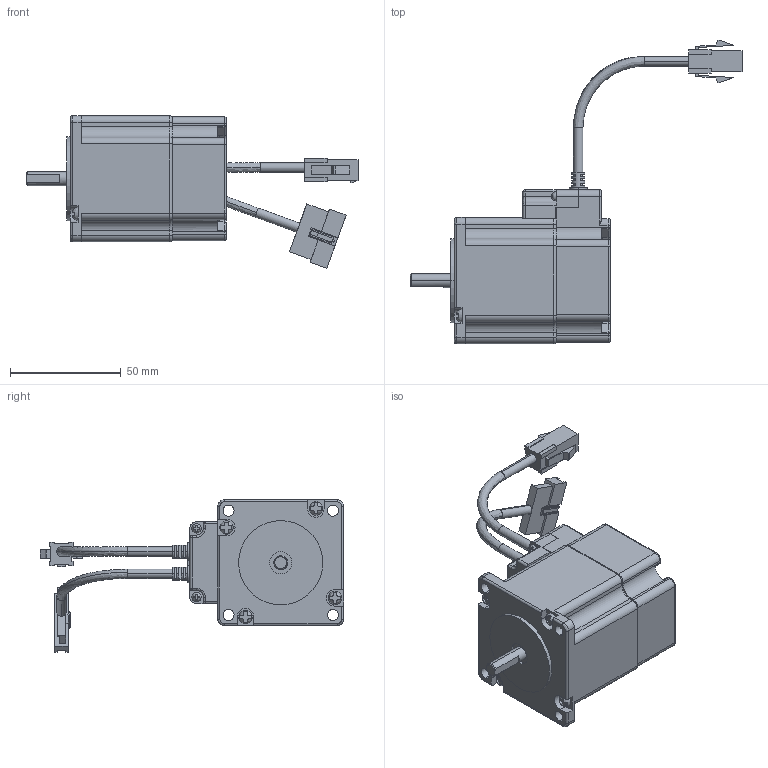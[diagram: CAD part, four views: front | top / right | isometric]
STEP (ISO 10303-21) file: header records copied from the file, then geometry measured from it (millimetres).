
FILE_DESCRIPTION (( 'STEP AP203' ), '1' );
FILE_NAME ('M11-MO-056-01-R00.STEP', '2014-12-21T05:16:00', ( 'Registered User' ), ( 'Microsoft Corporation' ), 'SwSTEP 2.0', 'SolidWorks 2013', '' );
FILE_SCHEMA (( 'CONFIG_CONTROL_DESIGN' ));
Length unit declared in the file: millimetre
Products named in the file (10): MainEzM-56S-assembly-1; EzM-56S Aassembly_091218; M11-MO-056-01-R00(EzM-56S-01); M11-MO-056-01-R00; MainEZSV_56_Cable_Cover-1-1; MainEZSV_56_Encoder_Cover-1-1; MainEncoder_Mounting_Plate-1-1; MainM3-screw-1; Maincable-1-1; Mainconnector_e-1-4
Assembly tree (14 placements, depth 4):
  M11-MO-056-01-R00
    M11-MO-056-01-R00(EzM-56S-01)
    EzM-56S Aassembly_091218
      MainEzM-56S-assembly-1
        MainEZSV_56_Cable_Cover-1-1
        MainEZSV_56_Encoder_Cover-1-1
        MainEncoder_Mounting_Plate-1-1
        MainM3-screw-1  x6
        Maincable-1-1
        Mainconnector_e-1-4
Bounding box: 150 x 137.16 x 68.99 mm (x, y, z)
Volume: 165296.1 mm3; surface area: 51258.2 mm2
Topology: 12 solids, 12 shells, 901 faces, 2384 edges, 1539 vertices
Faces by surface type: plane 489, cylinder 338, bspline 56, torus 12, cone 6
Entity records: 28566 total; most frequent: CARTESIAN_POINT 7888, ORIENTED_EDGE 4144, DIRECTION 3957, EDGE_CURVE 2072, AXIS2_PLACEMENT_3D 1370, VERTEX_POINT 1349, VECTOR 1217, LINE 1217
